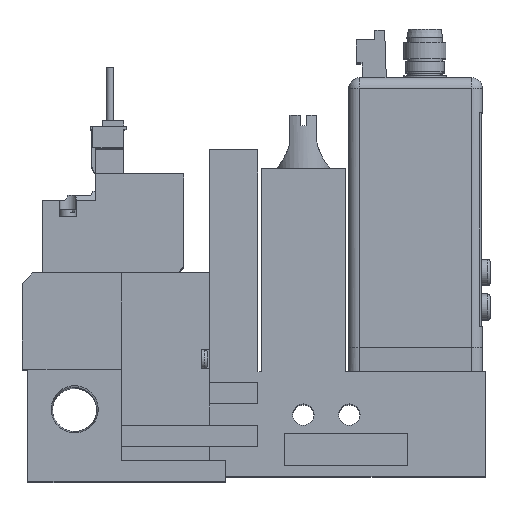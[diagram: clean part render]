
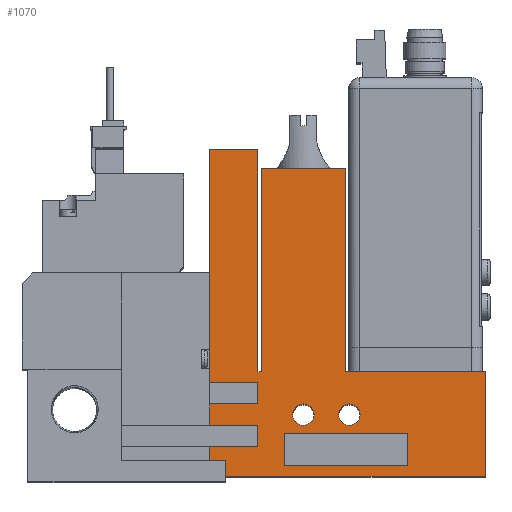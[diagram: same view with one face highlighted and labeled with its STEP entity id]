
A CAD part, top view. The second image highlights one B-rep face of the part: STEP entity #1070.
In plain terms, the highlighted planar face has unit normal (0, 0, 1).
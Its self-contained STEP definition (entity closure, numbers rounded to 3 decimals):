
#1070=ADVANCED_FACE('',(#4609,#4610,#4611,#4612),#4613,.T.);
#4609=FACE_OUTER_BOUND('',#12192,.T.);
#4610=FACE_BOUND('',#12193,.T.);
#4611=FACE_BOUND('',#12194,.T.);
#4612=FACE_BOUND('',#12195,.T.);
#4613=PLANE('',#12196);
#12192=EDGE_LOOP('',(#21376,#21377,#21378,#21379,#21380,#21381,#21382,#21383,#21384,#21385,#21386,#21387,#21388,#21389,#21390,#21391,#21392,#21393));
#12193=EDGE_LOOP('',(#21394,#21395,#21396,#21397));
#12194=EDGE_LOOP('',(#21398));
#12195=EDGE_LOOP('',(#21399));
#12196=AXIS2_PLACEMENT_3D('',#21400,#21401,#21402);
#21376=ORIENTED_EDGE('',*,*,#45973,.T.);
#21377=ORIENTED_EDGE('',*,*,#45974,.T.);
#21378=ORIENTED_EDGE('',*,*,#45975,.T.);
#21379=ORIENTED_EDGE('',*,*,#45976,.T.);
#21380=ORIENTED_EDGE('',*,*,#45977,.T.);
#21381=ORIENTED_EDGE('',*,*,#45978,.T.);
#21382=ORIENTED_EDGE('',*,*,#45979,.T.);
#21383=ORIENTED_EDGE('',*,*,#45980,.T.);
#21384=ORIENTED_EDGE('',*,*,#45981,.T.);
#21385=ORIENTED_EDGE('',*,*,#45927,.T.);
#21386=ORIENTED_EDGE('',*,*,#45982,.T.);
#21387=ORIENTED_EDGE('',*,*,#45922,.T.);
#21388=ORIENTED_EDGE('',*,*,#45983,.T.);
#21389=ORIENTED_EDGE('',*,*,#45984,.T.);
#21390=ORIENTED_EDGE('',*,*,#45985,.T.);
#21391=ORIENTED_EDGE('',*,*,#45986,.T.);
#21392=ORIENTED_EDGE('',*,*,#45987,.T.);
#21393=ORIENTED_EDGE('',*,*,#45988,.T.);
#21394=ORIENTED_EDGE('',*,*,#45989,.T.);
#21395=ORIENTED_EDGE('',*,*,#45990,.T.);
#21396=ORIENTED_EDGE('',*,*,#45991,.T.);
#21397=ORIENTED_EDGE('',*,*,#45992,.T.);
#21398=ORIENTED_EDGE('',*,*,#45993,.T.);
#21399=ORIENTED_EDGE('',*,*,#45994,.T.);
#21400=CARTESIAN_POINT('',(0.0,0.0,10.0));
#21401=DIRECTION('',(0.0,0.0,1.0));
#21402=DIRECTION('',(1.0,0.0,0.0));
#45922=EDGE_CURVE('',#55436,#55434,#55437,.T.);
#45927=EDGE_CURVE('',#55446,#55444,#55447,.T.);
#45973=EDGE_CURVE('',#55531,#55532,#55533,.T.);
#45974=EDGE_CURVE('',#55532,#55534,#55535,.T.);
#45975=EDGE_CURVE('',#55534,#55536,#55537,.T.);
#45976=EDGE_CURVE('',#55536,#55538,#55539,.T.);
#45977=EDGE_CURVE('',#55538,#55540,#55541,.T.);
#45978=EDGE_CURVE('',#55540,#55542,#55543,.T.);
#45979=EDGE_CURVE('',#55542,#55544,#55545,.T.);
#45980=EDGE_CURVE('',#55544,#55546,#55547,.T.);
#45981=EDGE_CURVE('',#55546,#55446,#55548,.T.);
#45982=EDGE_CURVE('',#55444,#55436,#55549,.T.);
#45983=EDGE_CURVE('',#55434,#55550,#55551,.T.);
#45984=EDGE_CURVE('',#55550,#55552,#55553,.T.);
#45985=EDGE_CURVE('',#55552,#55554,#55555,.T.);
#45986=EDGE_CURVE('',#55554,#55556,#55557,.T.);
#45987=EDGE_CURVE('',#55556,#55558,#55559,.T.);
#45988=EDGE_CURVE('',#55558,#55531,#55560,.T.);
#45989=EDGE_CURVE('',#55561,#55562,#55563,.T.);
#45990=EDGE_CURVE('',#55562,#55564,#55565,.T.);
#45991=EDGE_CURVE('',#55564,#55566,#55567,.T.);
#45992=EDGE_CURVE('',#55566,#55561,#55568,.T.);
#45993=EDGE_CURVE('',#55569,#55569,#55570,.T.);
#45994=EDGE_CURVE('',#55571,#55571,#55572,.T.);
#55434=VERTEX_POINT('',#69551);
#55436=VERTEX_POINT('',#69554);
#55437=LINE('',#69555,#69556);
#55444=VERTEX_POINT('',#69566);
#55446=VERTEX_POINT('',#69569);
#55447=LINE('',#69570,#69571);
#55531=VERTEX_POINT('',#69716);
#55532=VERTEX_POINT('',#69717);
#55533=LINE('',#69718,#69719);
#55534=VERTEX_POINT('',#69720);
#55535=LINE('',#69721,#69722);
#55536=VERTEX_POINT('',#69723);
#55537=LINE('',#69724,#69725);
#55538=VERTEX_POINT('',#69726);
#55539=LINE('',#69727,#69728);
#55540=VERTEX_POINT('',#69729);
#55541=LINE('',#69730,#69731);
#55542=VERTEX_POINT('',#69732);
#55543=LINE('',#69733,#69734);
#55544=VERTEX_POINT('',#69735);
#55545=LINE('',#69736,#69737);
#55546=VERTEX_POINT('',#69738);
#55547=LINE('',#69739,#69740);
#55548=LINE('',#69741,#69742);
#55549=LINE('',#69743,#69744);
#55550=VERTEX_POINT('',#69745);
#55551=LINE('',#69746,#69747);
#55552=VERTEX_POINT('',#69748);
#55553=LINE('',#69749,#69750);
#55554=VERTEX_POINT('',#69751);
#55555=LINE('',#69752,#69753);
#55556=VERTEX_POINT('',#69754);
#55557=LINE('',#69755,#69756);
#55558=VERTEX_POINT('',#69757);
#55559=LINE('',#69758,#69759);
#55560=LINE('',#69760,#69761);
#55561=VERTEX_POINT('',#69762);
#55562=VERTEX_POINT('',#69763);
#55563=LINE('',#69764,#69765);
#55564=VERTEX_POINT('',#69766);
#55565=LINE('',#69767,#69768);
#55566=VERTEX_POINT('',#69769);
#55567=LINE('',#69770,#69771);
#55568=LINE('',#69772,#69773);
#55569=VERTEX_POINT('',#69774);
#55570=CIRCLE('',#69775,2.0);
#55571=VERTEX_POINT('',#69776);
#55572=CIRCLE('',#69777,2.0);
#69551=CARTESIAN_POINT('',(60.45,19.5,10.0));
#69554=CARTESIAN_POINT('',(86.6,19.5,10.0));
#69555=CARTESIAN_POINT('',(86.6,19.5,10.0));
#69556=VECTOR('',#89849,1.0);
#69566=CARTESIAN_POINT('',(86.6,0.0,10.0));
#69569=CARTESIAN_POINT('',(35.1,0.0,10.0));
#69570=CARTESIAN_POINT('',(18.6,0.0,10.0));
#69571=VECTOR('',#89854,1.0);
#69716=CARTESIAN_POINT('',(35.1,61.0,10.0));
#69717=CARTESIAN_POINT('',(35.1,17.5,10.0));
#69718=CARTESIAN_POINT('',(35.1,61.0,10.0));
#69719=VECTOR('',#89911,1.0);
#69720=CARTESIAN_POINT('',(44.1,17.5,10.0));
#69721=CARTESIAN_POINT('',(0.0,17.5,10.0));
#69722=VECTOR('',#89912,1.0);
#69723=CARTESIAN_POINT('',(44.1,13.5,10.0));
#69724=CARTESIAN_POINT('',(44.1,0.0,10.0));
#69725=VECTOR('',#89913,1.0);
#69726=CARTESIAN_POINT('',(35.1,13.5,10.0));
#69727=CARTESIAN_POINT('',(0.0,13.5,10.0));
#69728=VECTOR('',#89914,1.0);
#69729=CARTESIAN_POINT('',(35.1,9.5,10.0));
#69730=CARTESIAN_POINT('',(35.1,0.0,10.0));
#69731=VECTOR('',#89915,1.0);
#69732=CARTESIAN_POINT('',(44.1,9.5,10.0));
#69733=CARTESIAN_POINT('',(0.0,9.5,10.0));
#69734=VECTOR('',#89916,1.0);
#69735=CARTESIAN_POINT('',(44.1,5.5,10.0));
#69736=CARTESIAN_POINT('',(44.1,0.0,10.0));
#69737=VECTOR('',#89917,1.0);
#69738=CARTESIAN_POINT('',(35.1,5.5,10.0));
#69739=CARTESIAN_POINT('',(0.0,5.5,10.0));
#69740=VECTOR('',#89918,1.0);
#69741=CARTESIAN_POINT('',(35.1,0.0,10.0));
#69742=VECTOR('',#89919,1.0);
#69743=CARTESIAN_POINT('',(86.6,0.0,10.0));
#69744=VECTOR('',#89920,1.0);
#69745=CARTESIAN_POINT('',(60.45,57.5,10.0));
#69746=CARTESIAN_POINT('',(60.45,19.5,10.0));
#69747=VECTOR('',#89921,1.0);
#69748=CARTESIAN_POINT('',(44.75,57.5,10.0));
#69749=CARTESIAN_POINT('',(60.45,57.5,10.0));
#69750=VECTOR('',#89922,1.0);
#69751=CARTESIAN_POINT('',(44.75,19.5,10.0));
#69752=CARTESIAN_POINT('',(44.75,57.5,10.0));
#69753=VECTOR('',#89923,1.0);
#69754=CARTESIAN_POINT('',(44.1,19.5,10.0));
#69755=CARTESIAN_POINT('',(44.75,19.5,10.0));
#69756=VECTOR('',#89924,1.0);
#69757=CARTESIAN_POINT('',(44.1,61.0,10.0));
#69758=CARTESIAN_POINT('',(44.1,19.5,10.0));
#69759=VECTOR('',#89925,1.0);
#69760=CARTESIAN_POINT('',(44.1,61.0,10.0));
#69761=VECTOR('',#89926,1.0);
#69762=CARTESIAN_POINT('',(49.1,2.0,10.0));
#69763=CARTESIAN_POINT('',(49.1,8.0,10.0));
#69764=CARTESIAN_POINT('',(49.1,0.0,10.0));
#69765=VECTOR('',#89927,1.0);
#69766=CARTESIAN_POINT('',(72.1,8.0,10.0));
#69767=CARTESIAN_POINT('',(0.0,8.0,10.0));
#69768=VECTOR('',#89928,1.0);
#69769=CARTESIAN_POINT('',(72.1,2.0,10.0));
#69770=CARTESIAN_POINT('',(72.1,0.0,10.0));
#69771=VECTOR('',#89929,1.0);
#69772=CARTESIAN_POINT('',(0.0,2.0,10.0));
#69773=VECTOR('',#89930,1.0);
#69774=CARTESIAN_POINT('',(54.6,11.5,10.0));
#69775=AXIS2_PLACEMENT_3D('',#89931,#89932,#89933);
#69776=CARTESIAN_POINT('',(63.2,11.5,10.0));
#69777=AXIS2_PLACEMENT_3D('',#89934,#89935,#89936);
#89849=DIRECTION('',(-1.0,0.0,0.0));
#89854=DIRECTION('',(1.0,0.0,0.0));
#89911=DIRECTION('',(0.0,-1.0,0.0));
#89912=DIRECTION('',(1.0,0.0,0.0));
#89913=DIRECTION('',(0.0,-1.0,0.0));
#89914=DIRECTION('',(-1.0,0.0,0.0));
#89915=DIRECTION('',(0.0,-1.0,0.0));
#89916=DIRECTION('',(1.0,0.0,0.0));
#89917=DIRECTION('',(0.0,-1.0,0.0));
#89918=DIRECTION('',(-1.0,0.0,0.0));
#89919=DIRECTION('',(0.0,-1.0,0.0));
#89920=DIRECTION('',(0.0,1.0,0.0));
#89921=DIRECTION('',(0.0,1.0,0.0));
#89922=DIRECTION('',(-1.0,0.0,0.0));
#89923=DIRECTION('',(0.0,-1.0,0.0));
#89924=DIRECTION('',(-1.0,0.0,0.0));
#89925=DIRECTION('',(0.0,1.0,0.0));
#89926=DIRECTION('',(-1.0,0.0,0.0));
#89927=DIRECTION('',(0.0,1.0,0.0));
#89928=DIRECTION('',(1.0,0.0,0.0));
#89929=DIRECTION('',(0.0,-1.0,0.0));
#89930=DIRECTION('',(-1.0,0.0,0.0));
#89931=CARTESIAN_POINT('',(52.6,11.5,10.0));
#89932=DIRECTION('',(0.0,0.0,-1.0));
#89933=DIRECTION('',(1.0,0.0,0.0));
#89934=CARTESIAN_POINT('',(61.2,11.5,10.0));
#89935=DIRECTION('',(0.0,0.0,-1.0));
#89936=DIRECTION('',(1.0,0.0,0.0));
